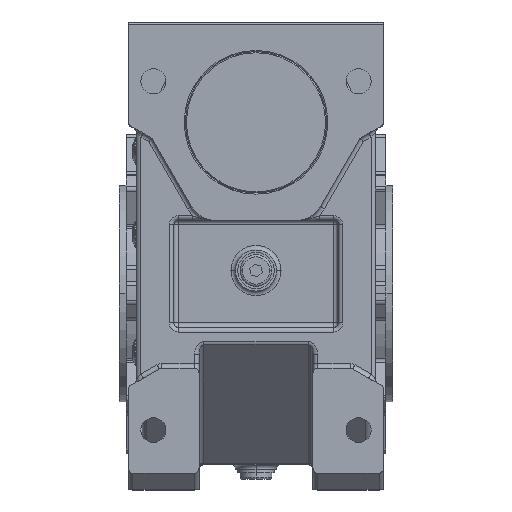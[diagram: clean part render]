
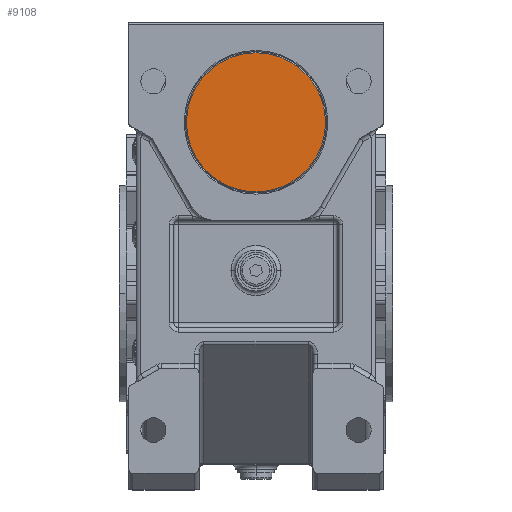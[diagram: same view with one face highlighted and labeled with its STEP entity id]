
A CAD part, top view. The second image highlights one B-rep face of the part: STEP entity #9108.
In plain terms, the highlighted planar face has unit normal (0, 0, 1).
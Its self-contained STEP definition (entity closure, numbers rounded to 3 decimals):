
#1510 = EDGE_CURVE ( 'NONE', #1511, #1512, #24472, .T. ) ;
#1511 = VERTEX_POINT ( 'NONE', #24455 ) ;
#1512 = VERTEX_POINT ( 'NONE', #24453 ) ;
#9108 = ADVANCED_FACE ( 'NONE', ( #80109 ), #78339, .T. ) ;
#9109 = EDGE_LOOP ( 'NONE', ( #9110, #9111 ) ) ;
#9110 = ORIENTED_EDGE ( 'NONE', *, *, #9123, .T. ) ;
#9111 = ORIENTED_EDGE ( 'NONE', *, *, #1510, .T. ) ;
#9123 = EDGE_CURVE ( 'NONE', #1512, #1511, #78364, .T. ) ;
#24453 = CARTESIAN_POINT ( 'NONE',  ( -30.5, 75., 86. ) ) ;
#24455 = CARTESIAN_POINT ( 'NONE',  ( 30.5, 75., 86. ) ) ;
#24457 = DIRECTION ( 'NONE',  ( 1., 0., 0. ) ) ;
#24459 = DIRECTION ( 'NONE',  ( 0., 0., 1. ) ) ;
#24461 = CARTESIAN_POINT ( 'NONE',  ( 0., 75., 86. ) ) ;
#24463 = AXIS2_PLACEMENT_3D ( 'NONE', #24461, #24459, #24457 ) ;
#24472 = CIRCLE ( 'NONE', #24463, 30.5 ) ;
#78322 = DIRECTION ( 'NONE',  ( 1., 0., 0. ) ) ;
#78323 = DIRECTION ( 'NONE',  ( 0., 0., 1. ) ) ;
#78324 = CARTESIAN_POINT ( 'NONE',  ( 0., 75., 86. ) ) ;
#78325 = AXIS2_PLACEMENT_3D ( 'NONE', #78324, #78323, #78322 ) ;
#78336 = DIRECTION ( 'NONE',  ( 0., 0., 1. ) ) ;
#78337 = CARTESIAN_POINT ( 'NONE',  ( 0., 75., 86. ) ) ;
#78338 = AXIS2_PLACEMENT_3D ( 'NONE', #78337, #78336, #78378 ) ;
#78339 = PLANE ( 'NONE',  #78338 ) ;
#78364 = CIRCLE ( 'NONE', #78325, 30.5 ) ;
#78378 = DIRECTION ( 'NONE',  ( 1., 0., 0. ) ) ;
#80109 = FACE_OUTER_BOUND ( 'NONE', #9109, .T. ) ;
